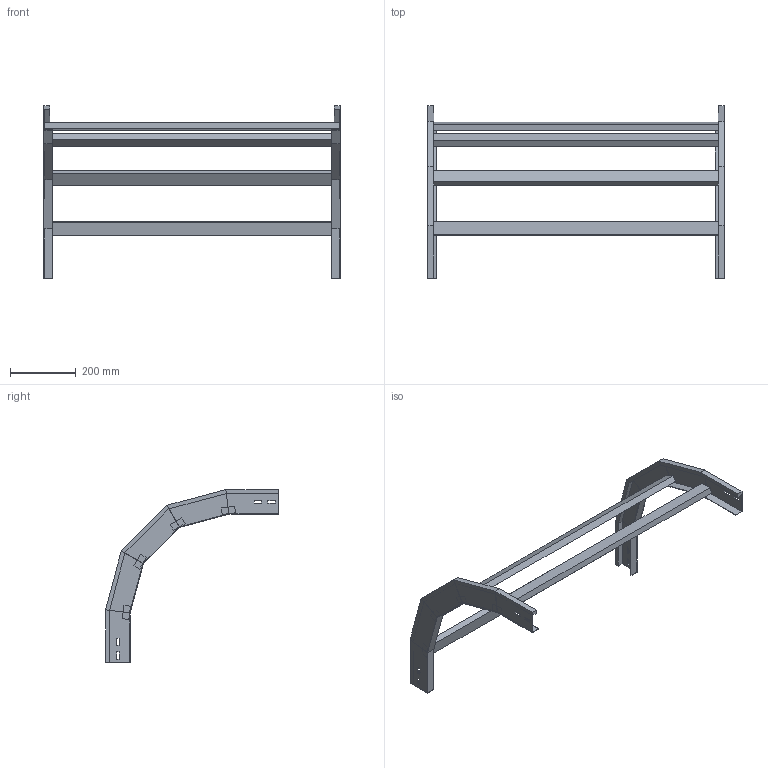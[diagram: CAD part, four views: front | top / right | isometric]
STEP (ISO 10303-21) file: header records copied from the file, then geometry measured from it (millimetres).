
FILE_DESCRIPTION (( 'STEP AP214' ), '1' );
FILE_NAME ('A2_33B3C900.step', '2025-02-21T15:05:50', ( '' ), ( '' ), 'SwSTEP 2.0', 'SolidWorks 2023', '' );
FILE_SCHEMA (( 'AUTOMOTIVE_DESIGN' ));
Length unit declared in the file: millimetre
Products named in the file (3): TRAVERSINO_900; A2_33B3C900; LONGH.DISCESA_90°_H75_R300
Assembly tree (6 placements, depth 2):
  A2_33B3C900
    LONGH.DISCESA_90°_H75_R300  x2
    TRAVERSINO_900  x4
Bounding box: 900 x 524.44 x 524.44 mm (x, y, z)
Volume: 3560829.3 mm3; surface area: 826936 mm2
Topology: 6 solids, 6 shells, 140 faces, 320 edges, 192 vertices
Faces by surface type: plane 140
Entity records: 1872 total; most frequent: CARTESIAN_POINT 309, ORIENTED_EDGE 296, DIRECTION 294, EDGE_CURVE 148, VECTOR 148, LINE 148, VERTEX_POINT 88, AXIS2_PLACEMENT_3D 73
